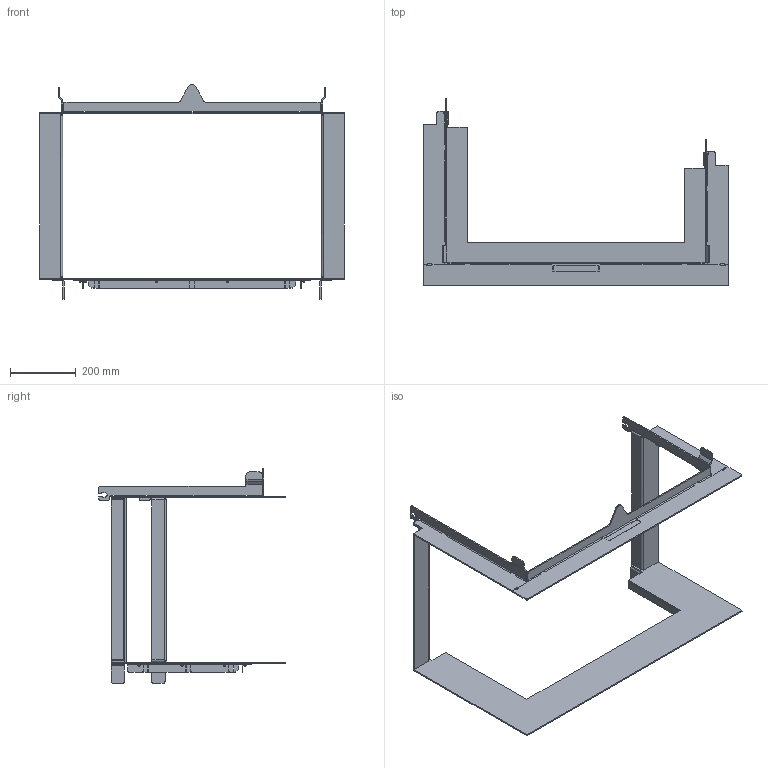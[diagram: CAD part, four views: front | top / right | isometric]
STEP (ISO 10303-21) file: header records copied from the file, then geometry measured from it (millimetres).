
FILE_DESCRIPTION(/* description */ (''),/* implementation_level */ '2;1');
FILE_NAME(/* name */ 'C:\ADSK_DM_WS\CAD_3D\06 Spezialprojekte\Blendrahmen\Zeichnungen\Blendrahmen RAS 50x80x42 Links 5+8-seitig CAD Planung defriten 2023-00998 230317.stp',/* time_stamp */ '2023-03-17T09:37:49+01:00',/* author */ ('CPI'),/* organization */ (''),/* preprocessor_version */ 'ST-DEVELOPER v18.1',/* originating_system */ 'Autodesk Inventor 2022',/* authorisation */ '');
FILE_SCHEMA (('AUTOMOTIVE_DESIGN { 1 0 10303 214 3 1 1 }'));
Length unit declared in the file: millimetre
Products named in the file (3): 2023-01171; 2023-01169; 2023-01167
Assembly tree (2 placements, depth 2):
  2023-01171
    2023-01169
    2023-01167
Bounding box: 926 x 568 x 652.14 mm (x, y, z)
Volume: 2105287.5 mm3; surface area: 1102955.1 mm2
Topology: 4 solids, 4 shells, 843 faces, 2252 edges, 1424 vertices
Faces by surface type: plane 420, cylinder 285, cone 104, bspline 34
Full cylindrical faces by diameter (mm): 4 x8, 10 x8
Entity records: 27277 total; most frequent: CARTESIAN_POINT 6234, ORIENTED_EDGE 4504, DIRECTION 4260, EDGE_CURVE 2252, AXIS2_PLACEMENT_3D 1470, VERTEX_POINT 1424, LINE 1320, VECTOR 1320
